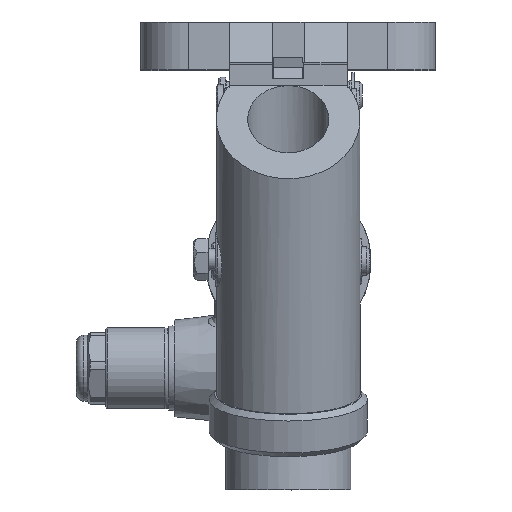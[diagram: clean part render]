
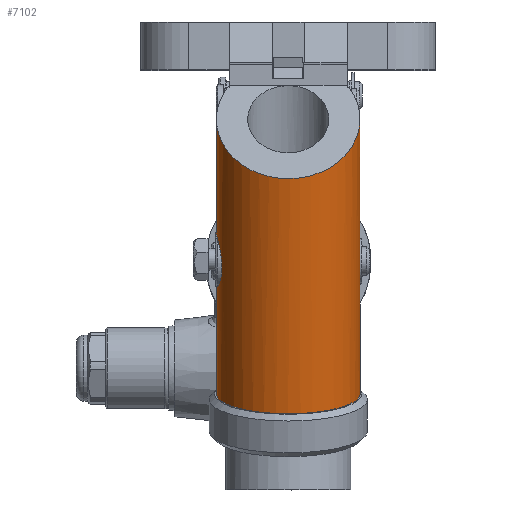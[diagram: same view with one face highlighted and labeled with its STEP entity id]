
A CAD part, top view. The second image highlights one B-rep face of the part: STEP entity #7102.
In plain terms, the highlighted cylindrical face has radius 19.48 mm (diameter 38.961 mm), a partial arc.
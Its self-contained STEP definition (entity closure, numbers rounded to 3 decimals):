
#49=ELLIPSE('',#10107,20.731,19.481);
#50=ELLIPSE('',#10112,20.731,19.481);
#51=ELLIPSE('',#10115,20.731,19.481);
#52=ELLIPSE('',#10118,22.494,19.481);
#53=ELLIPSE('',#10121,20.731,19.481);
#124=LINE('',#13492,#590);
#125=LINE('',#13493,#591);
#129=LINE('',#13503,#595);
#130=LINE('',#13505,#596);
#132=LINE('',#13511,#598);
#133=LINE('',#13515,#599);
#136=LINE('',#13523,#602);
#590=VECTOR('',#11181,1000.);
#591=VECTOR('',#11182,1000.);
#595=VECTOR('',#11192,1000.);
#596=VECTOR('',#11193,1000.);
#598=VECTOR('',#11201,1000.);
#599=VECTOR('',#11208,1000.);
#602=VECTOR('',#11217,1000.);
#1000=B_SPLINE_CURVE_WITH_KNOTS('',3,(#13525,#13526,#13527,#13528,#13529,
#13530),.UNSPECIFIED.,.F.,.F.,(4,1,1,4),(0.039,0.043,
0.045,0.047),.UNSPECIFIED.);
#1001=B_SPLINE_CURVE_WITH_KNOTS('',3,(#13532,#13533,#13534,#13535,#13536),
 .UNSPECIFIED.,.F.,.F.,(4,1,4),(0.,0.004,0.009),
 .UNSPECIFIED.);
#1002=B_SPLINE_CURVE_WITH_KNOTS('',3,(#13540,#13541,#13542,#13543,#13544),
 .UNSPECIFIED.,.F.,.F.,(4,1,4),(0.032,0.035,0.039),
 .UNSPECIFIED.);
#1003=B_SPLINE_CURVE_WITH_KNOTS('',3,(#13546,#13547,#13548,#13549,#13550,
#13551,#13552),.UNSPECIFIED.,.F.,.F.,(4,1,1,1,4),(0.015,0.019,
0.024,0.028,0.032),.UNSPECIFIED.);
#1004=B_SPLINE_CURVE_WITH_KNOTS('',3,(#13554,#13555,#13556,#13557,#13558),
 .UNSPECIFIED.,.F.,.F.,(4,1,4),(0.009,0.012,
0.015),.UNSPECIFIED.);
#1569=ORIENTED_EDGE('',*,*,#3431,.F.);
#1570=ORIENTED_EDGE('',*,*,#3430,.T.);
#1571=ORIENTED_EDGE('',*,*,#3427,.T.);
#1572=ORIENTED_EDGE('',*,*,#3426,.T.);
#1573=ORIENTED_EDGE('',*,*,#3425,.F.);
#1574=ORIENTED_EDGE('',*,*,#3423,.T.);
#1575=ORIENTED_EDGE('',*,*,#3422,.F.);
#1576=ORIENTED_EDGE('',*,*,#3432,.F.);
#1577=ORIENTED_EDGE('',*,*,#3435,.F.);
#1578=ORIENTED_EDGE('',*,*,#3436,.F.);
#1579=ORIENTED_EDGE('',*,*,#3437,.F.);
#1580=ORIENTED_EDGE('',*,*,#3433,.F.);
#1581=ORIENTED_EDGE('',*,*,#3421,.F.);
#1582=ORIENTED_EDGE('',*,*,#3419,.F.);
#1583=ORIENTED_EDGE('',*,*,#3416,.T.);
#1584=ORIENTED_EDGE('',*,*,#3413,.T.);
#1585=ORIENTED_EDGE('',*,*,#3415,.T.);
#1586=ORIENTED_EDGE('',*,*,#3411,.F.);
#3411=EDGE_CURVE('',#5695,#5696,#49,.T.);
#3413=EDGE_CURVE('',#5697,#5698,#4340,.T.);
#3415=EDGE_CURVE('',#5698,#5696,#124,.F.);
#3416=EDGE_CURVE('',#5699,#5697,#125,.T.);
#3419=EDGE_CURVE('',#5699,#5700,#50,.T.);
#3421=EDGE_CURVE('',#5700,#5702,#129,.F.);
#3422=EDGE_CURVE('',#5702,#5701,#130,.F.);
#3423=EDGE_CURVE('',#5703,#5701,#51,.T.);
#3425=EDGE_CURVE('',#5703,#5676,#132,.F.);
#3426=EDGE_CURVE('',#5677,#5676,#52,.T.);
#3427=EDGE_CURVE('',#5704,#5677,#133,.F.);
#3430=EDGE_CURVE('',#5705,#5704,#53,.T.);
#3431=EDGE_CURVE('',#5705,#5695,#136,.T.);
#3432=EDGE_CURVE('',#5706,#5702,#1000,.T.);
#3433=EDGE_CURVE('',#5702,#5707,#1001,.T.);
#3435=EDGE_CURVE('',#5708,#5706,#1002,.T.);
#3436=EDGE_CURVE('',#5709,#5708,#1003,.T.);
#3437=EDGE_CURVE('',#5707,#5709,#1004,.T.);
#4340=CIRCLE('',#10109,19.481);
#4814=EDGE_LOOP('',(#1569,#1570,#1571,#1572,#1573,#1574,#1575,#1576,#1577,
#1578,#1579,#1580,#1581,#1582,#1583,#1584,#1585,#1586));
#5464=CYLINDRICAL_SURFACE('',#10125,19.481);
#5676=VERTEX_POINT('',#13423);
#5677=VERTEX_POINT('',#13425);
#5695=VERTEX_POINT('',#13482);
#5696=VERTEX_POINT('',#13484);
#5697=VERTEX_POINT('',#13488);
#5698=VERTEX_POINT('',#13489);
#5699=VERTEX_POINT('',#13494);
#5700=VERTEX_POINT('',#13498);
#5701=VERTEX_POINT('',#13502);
#5702=VERTEX_POINT('',#13504);
#5703=VERTEX_POINT('',#13508);
#5704=VERTEX_POINT('',#13516);
#5705=VERTEX_POINT('',#13520);
#5706=VERTEX_POINT('',#13531);
#5707=VERTEX_POINT('',#13537);
#5708=VERTEX_POINT('',#13545);
#5709=VERTEX_POINT('',#13553);
#6412=FACE_BOUND('',#4814,.T.);
#7102=ADVANCED_FACE('',(#6412),#5464,.T.);
#10107=AXIS2_PLACEMENT_3D('',#13483,#11171,#11172);
#10109=AXIS2_PLACEMENT_3D('',#13487,#11176,#11177);
#10112=AXIS2_PLACEMENT_3D('',#13499,#11187,#11188);
#10115=AXIS2_PLACEMENT_3D('',#13507,#11196,#11197);
#10118=AXIS2_PLACEMENT_3D('',#13513,#11204,#11205);
#10121=AXIS2_PLACEMENT_3D('',#13521,#11213,#11214);
#10125=AXIS2_PLACEMENT_3D('',#13539,#11222,#11223);
#11171=DIRECTION('',(0.,0.81,0.587));
#11172=DIRECTION('',(0.,-0.587,0.81));
#11176=DIRECTION('',(0.,0.962,0.274));
#11177=DIRECTION('',(0.,-0.274,0.962));
#11181=DIRECTION('',(0.,-0.962,-0.274));
#11182=DIRECTION('',(0.,-0.962,-0.274));
#11187=DIRECTION('',(0.,0.81,0.587));
#11188=DIRECTION('',(0.,-0.587,0.81));
#11192=DIRECTION('',(0.,-0.962,-0.274));
#11193=DIRECTION('',(0.,-0.962,-0.274));
#11196=DIRECTION('',(0.,0.997,-0.071));
#11197=DIRECTION('',(0.,-0.071,-0.997));
#11201=DIRECTION('',(0.,-0.962,-0.274));
#11204=DIRECTION('',(0.,-0.696,-0.718));
#11205=DIRECTION('',(0.,-0.718,0.696));
#11208=DIRECTION('',(0.,-0.962,-0.274));
#11213=DIRECTION('',(0.,0.997,-0.071));
#11214=DIRECTION('',(0.,-0.071,-0.997));
#11217=DIRECTION('',(0.,-0.962,-0.274));
#11222=DIRECTION('',(0.,-0.962,-0.274));
#11223=DIRECTION('',(0.,0.274,-0.962));
#13423=CARTESIAN_POINT('',(-15.984,47.607,233.026));
#13425=CARTESIAN_POINT('',(15.984,47.607,233.026));
#13482=CARTESIAN_POINT('',(17.982,-33.007,213.819));
#13483=CARTESIAN_POINT('',(0.,-37.685,220.276));
#13484=CARTESIAN_POINT('',(7.492,-26.459,204.779));
#13487=CARTESIAN_POINT('',(0.,-36.144,220.716));
#13488=CARTESIAN_POINT('',(-7.493,-31.212,203.423));
#13489=CARTESIAN_POINT('',(7.492,-31.212,203.423));
#13492=CARTESIAN_POINT('',(7.492,49.485,226.443));
#13493=CARTESIAN_POINT('',(-7.493,49.485,226.443));
#13494=CARTESIAN_POINT('',(-7.493,-26.459,204.779));
#13498=CARTESIAN_POINT('',(-17.982,-33.007,213.819));
#13499=CARTESIAN_POINT('',(0.,-37.685,220.276));
#13502=CARTESIAN_POINT('',(-17.982,16.232,227.865));
#13503=CARTESIAN_POINT('',(-17.982,46.608,236.53));
#13504=CARTESIAN_POINT('',(-17.982,2.417,223.924));
#13505=CARTESIAN_POINT('',(-17.982,46.608,236.53));
#13507=CARTESIAN_POINT('',(0.,16.799,235.818));
#13508=CARTESIAN_POINT('',(-15.984,15.956,223.998));
#13511=CARTESIAN_POINT('',(-15.984,47.607,233.026));
#13513=CARTESIAN_POINT('',(0.,38.37,241.971));
#13515=CARTESIAN_POINT('',(15.984,47.607,233.026));
#13516=CARTESIAN_POINT('',(15.984,15.956,223.998));
#13520=CARTESIAN_POINT('',(17.982,16.232,227.865));
#13521=CARTESIAN_POINT('',(0.,16.799,235.818));
#13523=CARTESIAN_POINT('',(17.982,46.608,236.53));
#13525=CARTESIAN_POINT('',(-19.231,7.77,230.009));
#13526=CARTESIAN_POINT('',(-19.021,7.556,228.598));
#13527=CARTESIAN_POINT('',(-18.538,6.626,226.596));
#13528=CARTESIAN_POINT('',(-18.071,4.427,224.715));
#13529=CARTESIAN_POINT('',(-17.982,3.118,224.124));
#13530=CARTESIAN_POINT('',(-17.982,2.417,223.924));
#13531=CARTESIAN_POINT('',(-19.231,7.77,230.009));
#13532=CARTESIAN_POINT('',(-17.982,2.417,223.924));
#13533=CARTESIAN_POINT('',(-17.982,1.014,223.524));
#13534=CARTESIAN_POINT('',(-18.372,-1.949,223.57));
#13535=CARTESIAN_POINT('',(-19.022,-4.42,225.188));
#13536=CARTESIAN_POINT('',(-19.231,-5.341,226.269));
#13537=CARTESIAN_POINT('',(-19.231,-5.341,226.269));
#13539=CARTESIAN_POINT('',(0.,44.553,243.735));
#13540=CARTESIAN_POINT('',(-19.231,6.064,235.989));
#13541=CARTESIAN_POINT('',(-19.388,6.757,235.176));
#13542=CARTESIAN_POINT('',(-19.574,7.79,233.252));
#13543=CARTESIAN_POINT('',(-19.387,7.928,231.057));
#13544=CARTESIAN_POINT('',(-19.231,7.77,230.009));
#13545=CARTESIAN_POINT('',(-19.231,6.064,235.989));
#13546=CARTESIAN_POINT('',(-19.231,-7.047,232.249));
#13547=CARTESIAN_POINT('',(-19.02,-6.832,233.669));
#13548=CARTESIAN_POINT('',(-18.374,-5.603,236.316));
#13549=CARTESIAN_POINT('',(-17.786,-1.82,238.749));
#13550=CARTESIAN_POINT('',(-18.373,2.692,238.684));
#13551=CARTESIAN_POINT('',(-19.019,5.131,237.084));
#13552=CARTESIAN_POINT('',(-19.231,6.064,235.989));
#13553=CARTESIAN_POINT('',(-19.231,-7.047,232.249));
#13554=CARTESIAN_POINT('',(-19.231,-5.341,226.269));
#13555=CARTESIAN_POINT('',(-19.386,-6.025,227.072));
#13556=CARTESIAN_POINT('',(-19.574,-7.069,229.004));
#13557=CARTESIAN_POINT('',(-19.388,-7.206,231.194));
#13558=CARTESIAN_POINT('',(-19.231,-7.047,232.249));
